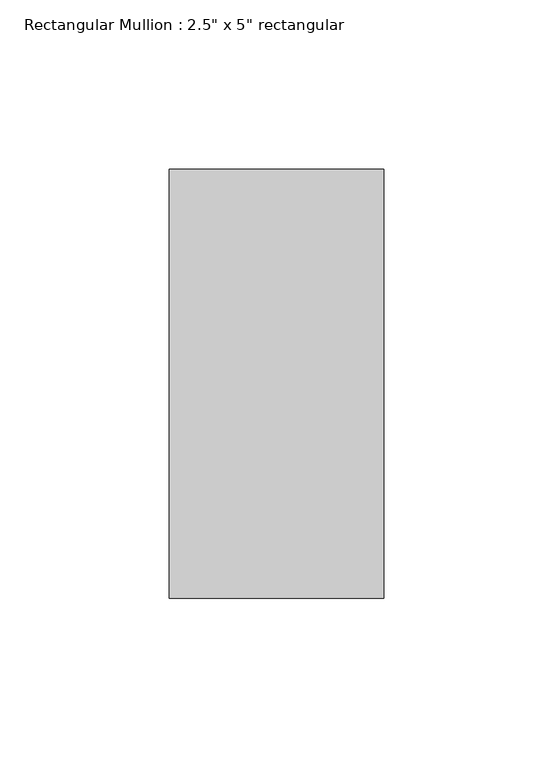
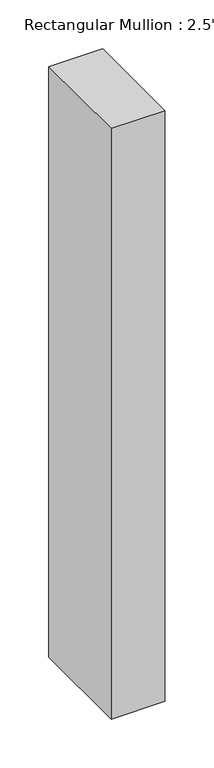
"""IFC4 building model written with IfcOpenShell, lengths in millimetres: member geometry."""

from ifc_helpers import new_model, si_unit, frame, origin, place, context, project, spatial, polyline, outline, extrude, source, transform, mapped, element, save


def member_438d2f6f(model_context):
    return source(origin(), model_context, "Body", "SweptSolid", [
        extrude(outline(polyline([(31.75, 63.5), (31.75, -63.5), (-31.75, -63.5), (-31.75, 63.5), (31.75, 63.5)])), frame((0.0, 0.0, -737.0522854), z_axis=(0.0, 0.0, 1.0), x_axis=(1.0, 0.0, 0.0)), (0.0, 0.0, 1.0), 737.0522854),
    ])


if __name__ == "__main__":
    model = new_model("IFC4")
    model_context = context("Model", 3, world=origin())
    ifc_project = project(units=[si_unit("LENGTHUNIT", "METRE", prefix="MILLI")], contexts=[model_context])
    site = spatial("IfcSite", under=ifc_project)
    building = spatial("IfcBuilding", under=site)
    placement = place(None, origin())
    member_shape = member_438d2f6f(model_context)
    element("IfcMember", 1, ObjectType="Rectangular Mullion : 2.5\" x 5\" rectangular", at=placement, inside=building, context=model_context, shape_type="MappedRepresentation", body=[
        mapped(member_shape, transform((0.0, 0.0, 0.0), x_axis=(1.0, 0.0, 0.0), y_axis=(0.0, 1.0, 0.0), z_axis=(0.0, 0.0, 1.0))),
    ])
    save(model, "model.ifc")
